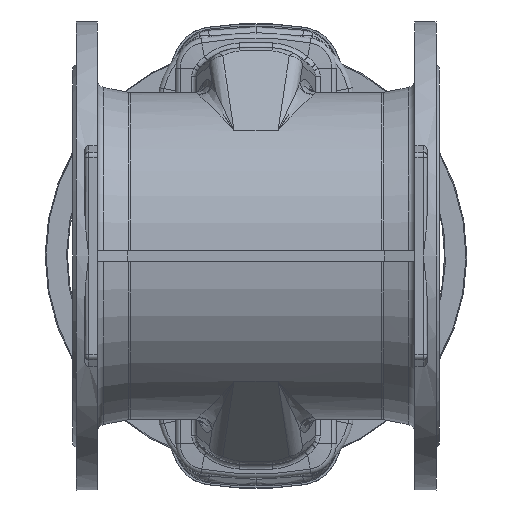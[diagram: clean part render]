
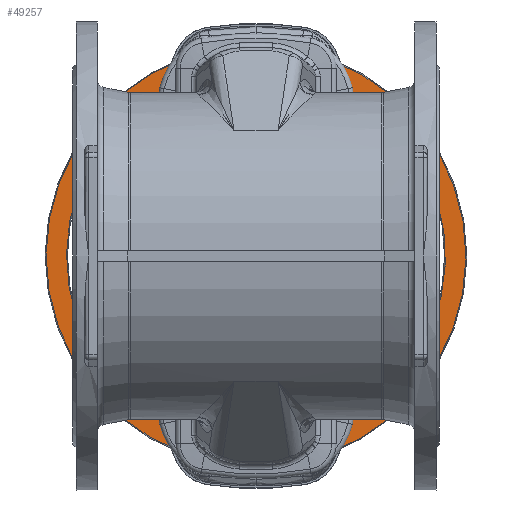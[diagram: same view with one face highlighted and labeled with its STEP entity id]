
A CAD part, front view. The second image highlights one B-rep face of the part: STEP entity #49257.
In plain terms, the highlighted planar face has unit normal (0, -1, 0).
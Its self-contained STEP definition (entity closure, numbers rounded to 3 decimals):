
#3258 = FACE_OUTER_BOUND ( 'NONE', #46902, .T. ) ;
#3273 = FACE_BOUND ( 'NONE', #46899, .T. ) ;
#3676 = VERTEX_POINT ( 'NONE', #30111 ) ;
#3679 = VERTEX_POINT ( 'NONE', #30114 ) ;
#15390 = AXIS2_PLACEMENT_3D ( 'NONE', #24507, #24511, #24512 ) ;
#24507 = CARTESIAN_POINT ( 'NONE',  ( 129.339, 966., 152.701 ) ) ;
#24509 = PLANE ( 'NONE',  #15390 ) ;
#24511 = DIRECTION ( 'NONE',  ( 0., 1., 0. ) ) ;
#24512 = DIRECTION ( 'NONE',  ( -0.646, 0., -0.763 ) ) ;
#25653 = CIRCLE ( 'NONE', #30441, 184.221 ) ;
#25662 = CIRCLE ( 'NONE', #30444, 204.116 ) ;
#30111 = CARTESIAN_POINT ( 'NONE',  ( 0., 966., 184.221 ) ) ;
#30114 = CARTESIAN_POINT ( 'NONE',  ( -131.925, 966., -155.754 ) ) ;
#30441 = AXIS2_PLACEMENT_3D ( 'NONE', #42035, #42036, #42037 ) ;
#30444 = AXIS2_PLACEMENT_3D ( 'NONE', #42053, #42055, #42057 ) ;
#39156 = EDGE_CURVE ( 'NONE', #3676, #3676, #25653, .T. ) ;
#39159 = EDGE_CURVE ( 'NONE', #3679, #3679, #25662, .T. ) ;
#42035 = CARTESIAN_POINT ( 'NONE',  ( 0., 966., 0. ) ) ;
#42036 = DIRECTION ( 'NONE',  ( 0., -1., 0. ) ) ;
#42037 = DIRECTION ( 'NONE',  ( 0., 0., 1. ) ) ;
#42053 = CARTESIAN_POINT ( 'NONE',  ( 0., 966., 0. ) ) ;
#42055 = DIRECTION ( 'NONE',  ( 0., 1., 0. ) ) ;
#42057 = DIRECTION ( 'NONE',  ( -0.646, 0., -0.763 ) ) ;
#44337 = ORIENTED_EDGE ( 'NONE', *, *, #39159, .F. ) ;
#44338 = ORIENTED_EDGE ( 'NONE', *, *, #39156, .F. ) ;
#46899 = EDGE_LOOP ( 'NONE', ( #44338 ) ) ;
#46902 = EDGE_LOOP ( 'NONE', ( #44337 ) ) ;
#49257 = ADVANCED_FACE ( 'NONE', ( #3258, #3273 ), #24509, .F. ) ;
